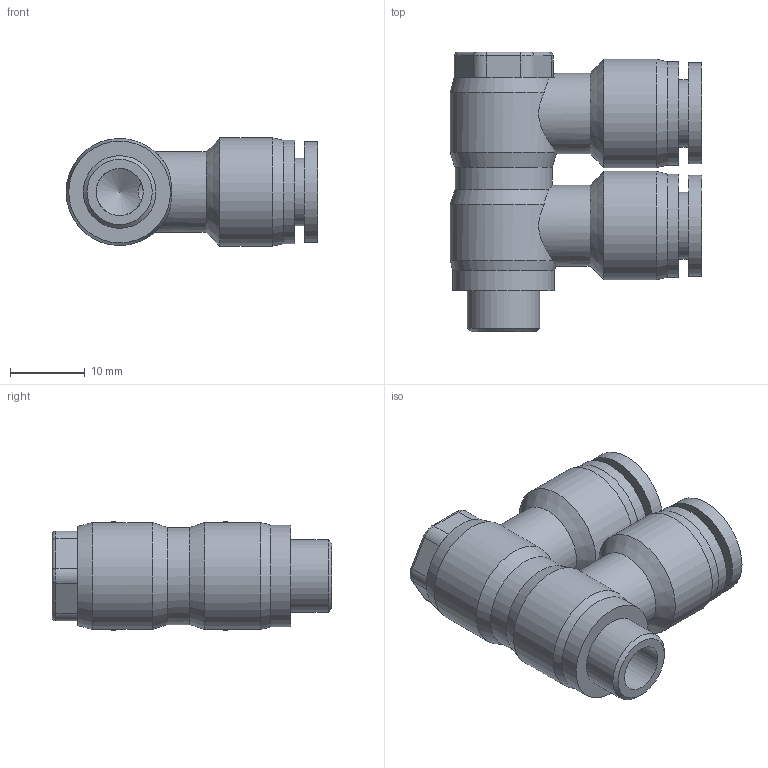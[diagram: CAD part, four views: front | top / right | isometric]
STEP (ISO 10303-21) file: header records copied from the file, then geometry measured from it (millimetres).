
FILE_DESCRIPTION((''),'2;1');
FILE_NAME('S:\UTecnico\ArchivioUT\Speciali Clienti\Speciali KONFIT\DISEGNI 3D\RP\RP 83\RP831808.stp','2012-12-10T10:09:06',('UT5'),(''),'Autodesk Inventor 2012','Autodesk Inventor 2012','');
FILE_SCHEMA(('AUTOMOTIVE_DESIGN { 1 0 10303 214 1 1 1 1 }'));
Length unit declared in the file: millimetre
Products named in the file (1): RP831808
Bounding box: 33.65 x 37.4 x 14.5 mm (x, y, z)
Volume: 8675 mm3; surface area: 5234.1 mm2
Topology: 1 solids, 1 shells, 72 faces, 168 edges, 101 vertices
Faces by surface type: cylinder 30, plane 26, cone 10, torus 6
Full cylindrical faces by diameter (mm): 4.698 x2, 6.3 x1, 9 x2, 9.72 x1, 10.8 x2, 13 x1, 13.5 x2, 13.6 x1, 13.8 x2, 14.5 x2
Entity records: 2074 total; most frequent: CARTESIAN_POINT 500, DIRECTION 349, ORIENTED_EDGE 264, AXIS2_PLACEMENT_3D 158, EDGE_CURVE 132, EDGE_LOOP 104, VERTEX_POINT 90, CIRCLE 85
